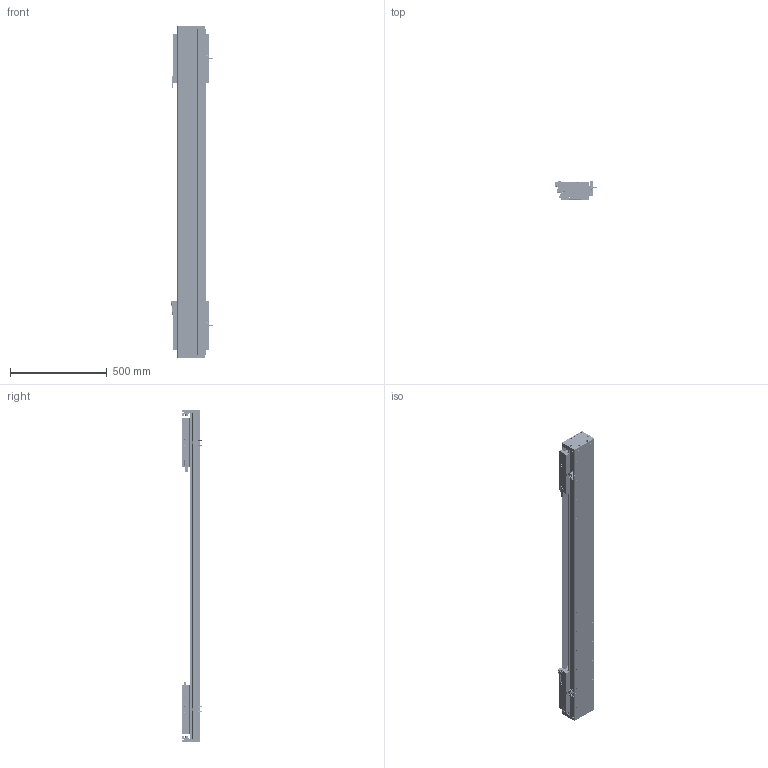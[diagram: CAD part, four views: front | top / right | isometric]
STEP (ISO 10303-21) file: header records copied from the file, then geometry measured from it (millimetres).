
FILE_DESCRIPTION (( 'STEP AP203' ), '1' );
FILE_NAME ('DA-C145-2-C3-T1100-C010-0.2 眻盄萇儂.STEP', '2025-08-13T10:19:01', ( '' ), ( '' ), 'SwSTEP 2.0', 'SolidWorks 2019', '' );
FILE_SCHEMA (( 'CONFIG_CONTROL_DESIGN' ));
Length unit declared in the file: millimetre
Products named in the file (38): 复件 半圆头内六角螺钉 M3×6^CU145-W 滚珠滑台; 复件 DA95-DB-00  挡板^CU145-W 滚珠滑台; 复件 DA95-HK-GT-00 滑块钢轨^CU145-W-00 一体化滑动台板; 复件 DA145-C3-YB-A-00 压板A^CU145-W 滚珠滑台; 葩璃 DA95-GT-T-00^IU-CU145-L 菁釱絳寢; 复件 DA145-DG 钢带端盖^复件 CU145 钢带组件_DA-C145-2-C3-T-C010-0.2; IU-CU145-L 菁釱絳寢; 葩璃 CU145 詩湍郪璃^DA-C145-2-C3-T-C010-0.2; DKW-GYP-ZJ-00 笢潔嫖萇覜茼え; CU145-W 幗紩賑怢; 复件 内六角平端紧定螺钉 GB.T77-2000 M5×10^CU145-W 滚珠滑台; 葩璃 XD-U-02L 棠掑喜^DA-C145-2-C3-T-C010-0.2; 复件 DA145 钢带^复件 CU145 钢带组件_DA-C145-2-C3-T-C010-0.2; 葩璃 CKM03-W060-C1C2-TP-0.2^DA-C145-2-C3-T-C010-0.2; 葩璃 DA95-HXJ-00 遣喳砎蝶^DA-C145-2-C3-T-C010-0.2; 葩璃 DA145-C3-DP-A-00 菜えA^CU145-W 幗紩賑怢; 66245-CU145-HT-W-00 賑雄怢啣(3D芞祧)(00); 复件 DA145-C3-DK-00 挡块^CU145-W 滚珠滑台; 葩璃 鞠褒情蹟譫 M3^DA-C145-2-C3-T-C010-0.2; 葩璃 DMA-010-0.2 黍杅芛^DA-C145-2-C3-T-C010-0.2; 葩璃 PM-T45^DA-C145-2-C3-T-C010-0.2; DA-C145-2-C3-T1100-C010-0.2 眻盄萇儂; 复件 DA145-C3-YB-B-00 压板B^CU145-W 滚珠滑台; 复件 DA146 钢带拉块^复件 CU145 钢带组件_DA-C145-2-C3-T-C010-0.2; TAY01-M8; CU145-W-00 珨极趙賑雄怢啣; DKW-KGZ-ZJ-00 中间光电开关支架; 复件 DA95-MFP-01 密封片^CU145-W 滚珠滑台; CU145-W-00 珨极趙賑雄怢啣-1; 葩璃 DA145-C3-DP-B-00 菜えB^CU145-W 幗紩賑怢; CU145-W 幗紩賑怢-1; 复件 DA145-GYP-00 光电感应片^DA-C145-2-C3-T-C010-0.2; 复件 纯铜油杯 6x6mm^CU145-W 滚珠滑台; 复件 DA146 钢带垫块^复件 CU145 钢带组件_DA-C145-2-C3-T-C010-0.2; 葩璃 CKMA01-W060-TRL^DA-C145-2-C3-T-C010-0.2; IU-CU145-L-00 菁釱(L1680); 葩璃 PM-Y65^DA-C145-2-C3-T-C010-0.2; DKW168-HXJ-ZJ-00 笢潔滅袉砎蝶
Assembly tree (180 placements, depth 4):
  DA-C145-2-C3-T1100-C010-0.2 眻盄萇儂
    IU-CU145-L 菁釱絳寢
      IU-CU145-L-00 菁釱(L1680)
      葩璃 DA95-GT-T-00^IU-CU145-L 菁釱絳寢  x4
    葩璃 CU145 詩湍郪璃^DA-C145-2-C3-T-C010-0.2
      复件 DA145-DG 钢带端盖^复件 CU145 钢带组件_DA-C145-2-C3-T-C010-0.2  x2
      复件 DA146 钢带拉块^复件 CU145 钢带组件_DA-C145-2-C3-T-C010-0.2  x2
      复件 DA146 钢带垫块^复件 CU145 钢带组件_DA-C145-2-C3-T-C010-0.2  x2
      复件 DA145 钢带^复件 CU145 钢带组件_DA-C145-2-C3-T-C010-0.2
    CU145-W 幗紩賑怢
      CU145-W-00 珨极趙賑雄怢啣
        66245-CU145-HT-W-00 賑雄怢啣(3D芞祧)(00)
        复件 DA95-HK-GT-00 滑块钢轨^CU145-W-00 一体化滑动台板  x8
      复件 DA95-MFP-01 密封片^CU145-W 滚珠滑台  x8
      复件 DA95-DB-00  挡板^CU145-W 滚珠滑台  x8
      复件 内六角平端紧定螺钉 GB.T77-2000 M5×10^CU145-W 滚珠滑台  x4
      复件 纯铜油杯 6x6mm^CU145-W 滚珠滑台  x4
      复件 半圆头内六角螺钉 M3×6^CU145-W 滚珠滑台  x16
      复件 DA145-C3-DK-00 挡块^CU145-W 滚珠滑台  x4
      葩璃 DA145-C3-DP-B-00 菜えB^CU145-W 幗紩賑怢  x2
      复件 DA145-C3-YB-B-00 压板B^CU145-W 滚珠滑台  x2
      葩璃 DA145-C3-DP-A-00 菜えA^CU145-W 幗紩賑怢  x3
      复件 DA145-C3-YB-A-00 压板A^CU145-W 滚珠滑台  x3
      TAY01-M8  x4
    CU145-W 幗紩賑怢-1
      CU145-W-00 珨极趙賑雄怢啣-1
        66245-CU145-HT-W-00 賑雄怢啣(3D芞祧)(00)
        复件 DA95-HK-GT-00 滑块钢轨^CU145-W-00 一体化滑动台板  x8
      复件 DA95-MFP-01 密封片^CU145-W 滚珠滑台  x8
      复件 DA95-DB-00  挡板^CU145-W 滚珠滑台  x8
      复件 内六角平端紧定螺钉 GB.T77-2000 M5×10^CU145-W 滚珠滑台  x4
      复件 纯铜油杯 6x6mm^CU145-W 滚珠滑台  x4
      复件 半圆头内六角螺钉 M3×6^CU145-W 滚珠滑台  x16
      复件 DA145-C3-DK-00 挡块^CU145-W 滚珠滑台  x4
      葩璃 DA145-C3-DP-B-00 菜えB^CU145-W 幗紩賑怢  x2
      复件 DA145-C3-YB-B-00 压板B^CU145-W 滚珠滑台  x2
      葩璃 DA145-C3-DP-A-00 菜えA^CU145-W 幗紩賑怢  x3
      复件 DA145-C3-YB-A-00 压板A^CU145-W 滚珠滑台  x3
      TAY01-M8  x4
    葩璃 CKMA01-W060-TRL^DA-C145-2-C3-T-C010-0.2
    葩璃 PM-T45^DA-C145-2-C3-T-C010-0.2  x4
    葩璃 XD-U-02L 棠掑喜^DA-C145-2-C3-T-C010-0.2
    葩璃 DA95-HXJ-00 遣喳砎蝶^DA-C145-2-C3-T-C010-0.2  x4
    葩璃 CKM03-W060-C1C2-TP-0.2^DA-C145-2-C3-T-C010-0.2  x2
    葩璃 DMA-010-0.2 黍杅芛^DA-C145-2-C3-T-C010-0.2  x2
    复件 DA145-GYP-00 光电感应片^DA-C145-2-C3-T-C010-0.2  x2
    DKW-GYP-ZJ-00 笢潔嫖萇覜茼え
    DKW-KGZ-ZJ-00 中间光电开关支架
    葩璃 PM-Y65^DA-C145-2-C3-T-C010-0.2
    葩璃 鞠褒情蹟譫 M3^DA-C145-2-C3-T-C010-0.2  x8
    DKW168-HXJ-ZJ-00 笢潔滅袉砎蝶
Bounding box: 213.7 x 108.45 x 1716 mm (x, y, z)
Volume: 10789430.9 mm3; surface area: 3238587.9 mm2
Topology: 175 solids, 239 shells, 7213 faces, 18987 edges, 11677 vertices
Faces by surface type: cylinder 2938, plane 2935, cone 1184, torus 140, sphere 8, bspline 8
Entity records: 118782 total; most frequent: CARTESIAN_POINT 31166, ORIENTED_EDGE 16660, DIRECTION 16515, EDGE_CURVE 8330, AXIS2_PLACEMENT_3D 6041, VERTEX_POINT 5376, VECTOR 4433, LINE 4433
